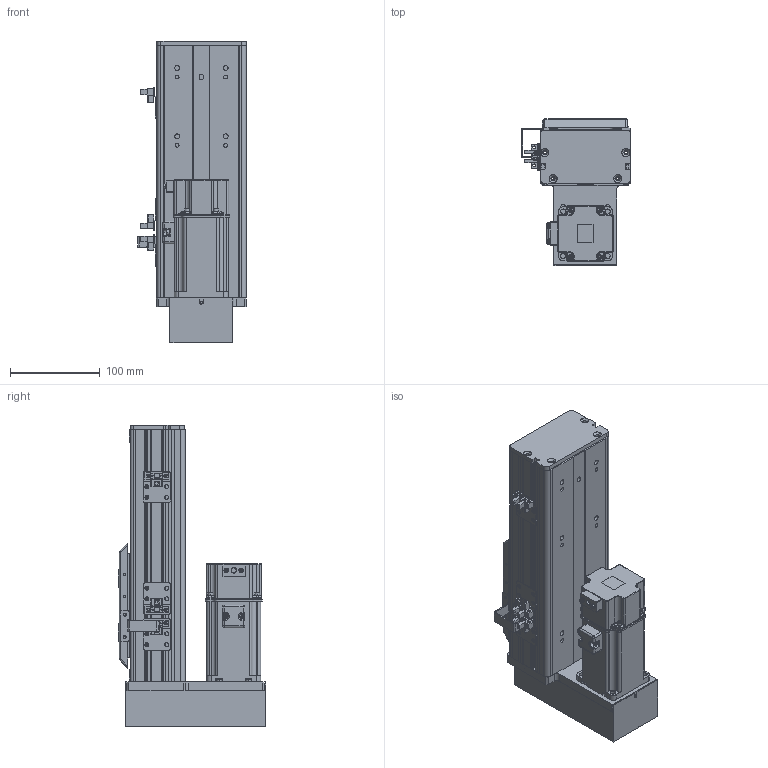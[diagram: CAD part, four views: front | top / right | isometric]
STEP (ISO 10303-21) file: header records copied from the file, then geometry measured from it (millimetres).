
FILE_DESCRIPTION (( 'STEP AP203' ), '1' );
FILE_NAME ('BOSW100-100-1610-1P-DM-M400W-O-S3（方程式2016）.step', '2020-10-10T06:39:07', ( '' ), ( '' ), 'SwSTEP 2.0', 'SolidWorks 2016', '' );
FILE_SCHEMA (( 'CONFIG_CONTROL_DESIGN' ));
Length unit declared in the file: millimetre
Products named in the file (14): BOSW&TW-100-1P-賑雄釱欶; BOSW-100-1P-DM-宽轨-钢带-100客户图纸; BOSW&TW-100-俋离覜茼え; 新结构AIMSW-100-1P-宽&高轨共用-滑动座上组件; S400W(SMA-L040); BOS100-DM鎮湛欶; BOSW100-100-1610-1P-DM-M400W-O-S3（方程式2016）; BOSW-100-綴裔啣; 俋境嫖覜嘐隅啣; BOS-100-DM鎮湛假蚾啣; BOSW&TW-100-詩湍揤沭(陔賦凳); BOSW-100-1P-DM-100諦誧芞; BOSW-100-1P-DM-宽轨-侧板-100客户图纸; 放大器内置U型微型光电传感器PM-L65
Assembly tree (19 placements, depth 2):
  BOSW100-100-1610-1P-DM-M400W-O-S3（方程式2016）
    BOSW-100-1P-DM-100諦誧芞
    BOSW-100-綴裔啣
    新结构AIMSW-100-1P-宽&高轨共用-滑动座上组件
    S400W(SMA-L040)
    BOSW&TW-100-詩湍揤沭(陔賦凳)  x2
    BOSW&TW-100-1P-賑雄釱欶
    BOSW&TW-100-俋离覜茼え
    俋境嫖覜嘐隅啣  x3
    放大器内置U型微型光电传感器PM-L65  x3
    BOSW-100-1P-DM-宽轨-侧板-100客户图纸  x2
    BOSW-100-1P-DM-宽轨-钢带-100客户图纸
    BOS100-DM鎮湛欶
    BOS-100-DM鎮湛假蚾啣
Bounding box: 120.9 x 164 x 336 mm (x, y, z)
Volume: 964058 mm3; surface area: 490332.8 mm2
Topology: 19 solids, 19 shells, 2498 faces, 6572 edges, 4197 vertices
Faces by surface type: plane 1259, cylinder 763, bspline 271, cone 157, torus 36, sphere 12
Entity records: 68167 total; most frequent: CARTESIAN_POINT 20530, ORIENTED_EDGE 9700, DIRECTION 9358, EDGE_CURVE 4850, AXIS2_PLACEMENT_3D 3286, VERTEX_POINT 3099, LINE 2786, VECTOR 2786
